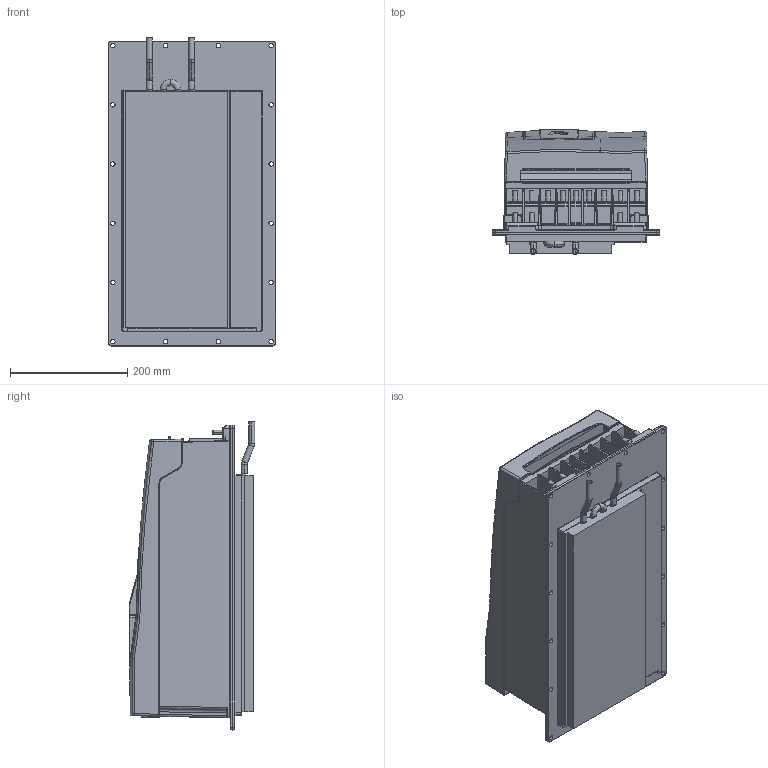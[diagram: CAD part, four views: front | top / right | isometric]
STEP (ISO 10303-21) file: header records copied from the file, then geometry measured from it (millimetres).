
FILE_DESCRIPTION (( 'STEP AP214' ), '1' );
FILE_NAME ('F6-6TW5-K000.STEP', '2020-12-09T14:50:44', ( '' ), ( '' ), 'SwSTEP 2.0', 'SolidWorks 2019', '' );
FILE_SCHEMA (( 'AUTOMOTIVE_DESIGN' ));
Length unit declared in the file: millimetre
Products named in the file (11): 10062206_000; 10061794_000; 10035735_000_Kundenmodell; 10059765_000; 10059764_000_Blindabdeckung (Kundenmodell); 10046078_000_Leistungsteil F6-6 TW5 (Kundenmodell); 10058413_000; 10060787_000; F6-6TW5-K000; 10027052_000_Geh„usebaugruppe F6-6 (Kundenmodell); 10061793_000_Deckelbaugruppe F6-6 (Kundenmodell)
Assembly tree (10 placements, depth 4):
  F6-6TW5-K000
    10046078_000_Leistungsteil F6-6 TW5 (Kundenmodell)
      10062206_000
    10035735_000_Kundenmodell
      10059764_000_Blindabdeckung (Kundenmodell)
        10059765_000
      10058413_000
    10027052_000_Geh„usebaugruppe F6-6 (Kundenmodell)
      10061793_000_Deckelbaugruppe F6-6 (Kundenmodell)
        10061794_000
      10060787_000
Bounding box: 285 x 214.1 x 525.5 mm (x, y, z)
Volume: 20590511 mm3; surface area: 1265466.5 mm2
Topology: 12 solids, 25 shells, 3013 faces, 7673 edges, 4626 vertices
Faces by surface type: cylinder 1054, plane 974, bspline 626, torus 169, sphere 108, cone 82
Entity records: 103848 total; most frequent: CARTESIAN_POINT 36604, ORIENTED_EDGE 15026, DIRECTION 12890, EDGE_CURVE 7513, AXIS2_PLACEMENT_3D 4725, VERTEX_POINT 4624, VECTOR 3440, LINE 3440
